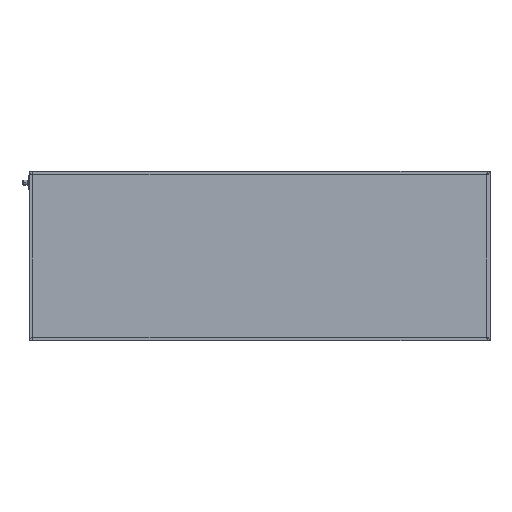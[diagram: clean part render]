
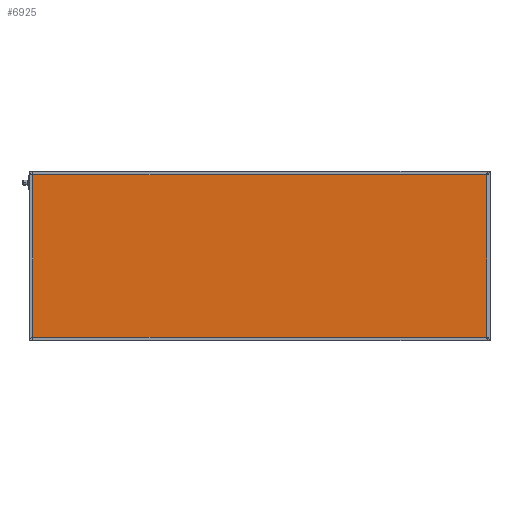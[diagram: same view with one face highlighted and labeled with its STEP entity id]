
A CAD part, top view. The second image highlights one B-rep face of the part: STEP entity #6925.
In plain terms, the highlighted planar face has unit normal (0, 0, 1).
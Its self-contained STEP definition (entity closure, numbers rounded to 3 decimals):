
#218 = VECTOR ( 'NONE', #13649, 1000. ) ;
#1664 = CARTESIAN_POINT ( 'NONE',  ( 1096., 0., 41.85 ) ) ;
#2690 = CARTESIAN_POINT ( 'NONE',  ( 4., 396., 41.85 ) ) ;
#2727 = LINE ( 'NONE', #15066, #15139 ) ;
#2766 = EDGE_CURVE ( 'NONE', #5975, #3854, #2727, .T. ) ;
#3070 = VERTEX_POINT ( 'NONE', #3896 ) ;
#3854 = VERTEX_POINT ( 'NONE', #2690 ) ;
#3896 = CARTESIAN_POINT ( 'NONE',  ( 1096., 4., 41.85 ) ) ;
#4427 = DIRECTION ( 'NONE',  ( -1., 0., 0. ) ) ;
#5527 = ORIENTED_EDGE ( 'NONE', *, *, #11368, .T. ) ;
#5627 = VERTEX_POINT ( 'NONE', #11634 ) ;
#5775 = PLANE ( 'NONE',  #16891 ) ;
#5975 = VERTEX_POINT ( 'NONE', #7943 ) ;
#6842 = CARTESIAN_POINT ( 'NONE',  ( 0., 4., 41.85 ) ) ;
#6925 = ADVANCED_FACE ( 'NONE', ( #12394 ), #5775, .F. ) ;
#7229 = EDGE_CURVE ( 'NONE', #3070, #5975, #8444, .T. ) ;
#7705 = VECTOR ( 'NONE', #11412, 1000. ) ;
#7943 = CARTESIAN_POINT ( 'NONE',  ( 1096., 396., 41.85 ) ) ;
#8444 = LINE ( 'NONE', #1664, #13226 ) ;
#8699 = CARTESIAN_POINT ( 'NONE',  ( 4., 0., 41.85 ) ) ;
#9296 = ORIENTED_EDGE ( 'NONE', *, *, #7229, .T. ) ;
#9862 = CARTESIAN_POINT ( 'NONE',  ( 0., 0., 41.85 ) ) ;
#10530 = EDGE_CURVE ( 'NONE', #5627, #3070, #16257, .T. ) ;
#10971 = EDGE_LOOP ( 'NONE', ( #9296, #12560, #5527, #15632 ) ) ;
#10981 = DIRECTION ( 'NONE',  ( 0., 1., 0. ) ) ;
#11097 = DIRECTION ( 'NONE',  ( 0., 0., -1. ) ) ;
#11368 = EDGE_CURVE ( 'NONE', #3854, #5627, #17068, .T. ) ;
#11412 = DIRECTION ( 'NONE',  ( 0., -1., 0. ) ) ;
#11634 = CARTESIAN_POINT ( 'NONE',  ( 4., 4., 41.85 ) ) ;
#12394 = FACE_OUTER_BOUND ( 'NONE', #10971, .T. ) ;
#12560 = ORIENTED_EDGE ( 'NONE', *, *, #2766, .T. ) ;
#13226 = VECTOR ( 'NONE', #10981, 1000. ) ;
#13649 = DIRECTION ( 'NONE',  ( 1., 0., 0. ) ) ;
#15066 = CARTESIAN_POINT ( 'NONE',  ( 0., 396., 41.85 ) ) ;
#15139 = VECTOR ( 'NONE', #4427, 1000. ) ;
#15632 = ORIENTED_EDGE ( 'NONE', *, *, #10530, .T. ) ;
#16257 = LINE ( 'NONE', #6842, #218 ) ;
#16413 = DIRECTION ( 'NONE',  ( -1., 0., 0. ) ) ;
#16891 = AXIS2_PLACEMENT_3D ( 'NONE', #9862, #11097, #16413 ) ;
#17068 = LINE ( 'NONE', #8699, #7705 ) ;
